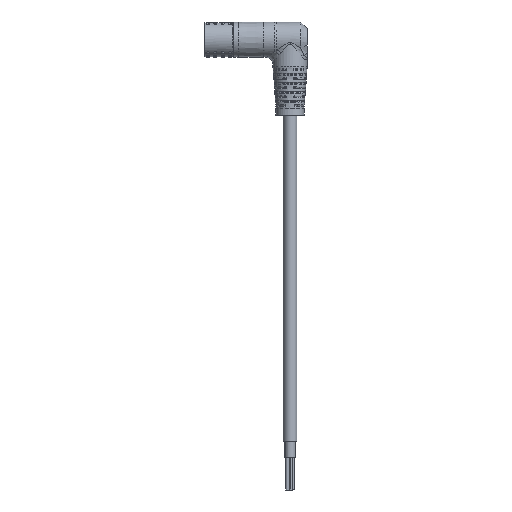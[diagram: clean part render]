
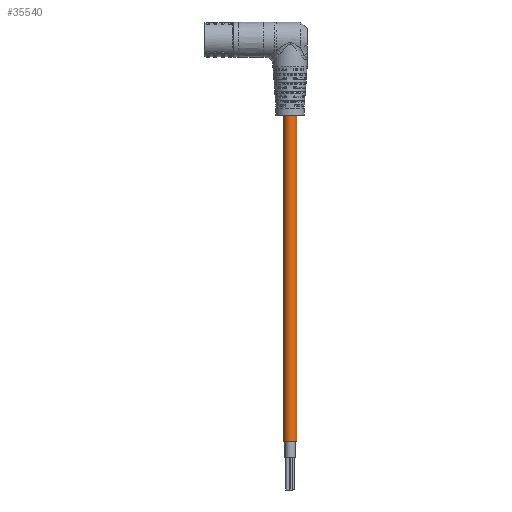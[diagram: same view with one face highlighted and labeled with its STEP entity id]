
A CAD part, front view. The second image highlights one B-rep face of the part: STEP entity #35540.
In plain terms, the highlighted cylindrical face has radius 4.2 mm (diameter 8.4 mm), a full revolution.
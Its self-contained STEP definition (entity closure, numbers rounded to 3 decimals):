
#1978 = ORIENTED_EDGE ( 'NONE', *, *, #13631, .T. ) ;
#2295 = DIRECTION ( 'NONE',  ( 0.48, 0.877, 0. ) ) ;
#2736 = VERTEX_POINT ( 'NONE', #8773 ) ;
#2927 = DIRECTION ( 'NONE',  ( 0., 0., 1. ) ) ;
#4747 = CYLINDRICAL_SURFACE ( 'NONE', #9099, 4.2 ) ;
#7417 = FACE_OUTER_BOUND ( 'NONE', #34241, .T. ) ;
#8773 = CARTESIAN_POINT ( 'NONE',  ( -41.243, 45.807, -259.463 ) ) ;
#9099 = AXIS2_PLACEMENT_3D ( 'NONE', #13595, #10782, #2295 ) ;
#10782 = DIRECTION ( 'NONE',  ( 0., 0., 1. ) ) ;
#10867 = CIRCLE ( 'NONE', #28835, 4.2 ) ;
#13595 = CARTESIAN_POINT ( 'NONE',  ( -43.259, 42.123, -259.463 ) ) ;
#13631 = EDGE_CURVE ( 'NONE', #2736, #2736, #19287, .T. ) ;
#14036 = DIRECTION ( 'NONE',  ( 0.48, 0.877, 0. ) ) ;
#16041 = FACE_OUTER_BOUND ( 'NONE', #17508, .T. ) ;
#16997 = DIRECTION ( 'NONE',  ( 0.48, 0.877, 0. ) ) ;
#17508 = EDGE_LOOP ( 'NONE', ( #1978 ) ) ;
#17595 = CARTESIAN_POINT ( 'NONE',  ( -43.259, 42.123, -59.463 ) ) ;
#19287 = CIRCLE ( 'NONE', #24687, 4.2 ) ;
#19599 = DIRECTION ( 'NONE',  ( 0., 0., 1. ) ) ;
#22638 = VERTEX_POINT ( 'NONE', #25263 ) ;
#24687 = AXIS2_PLACEMENT_3D ( 'NONE', #33851, #19599, #16997 ) ;
#25263 = CARTESIAN_POINT ( 'NONE',  ( -41.243, 45.807, -59.463 ) ) ;
#26497 = ORIENTED_EDGE ( 'NONE', *, *, #33369, .F. ) ;
#28835 = AXIS2_PLACEMENT_3D ( 'NONE', #17595, #2927, #14036 ) ;
#33369 = EDGE_CURVE ( 'NONE', #22638, #22638, #10867, .T. ) ;
#33851 = CARTESIAN_POINT ( 'NONE',  ( -43.259, 42.123, -259.463 ) ) ;
#34241 = EDGE_LOOP ( 'NONE', ( #26497 ) ) ;
#35540 = ADVANCED_FACE ( 'NONE', ( #16041, #7417 ), #4747, .T. ) ;
